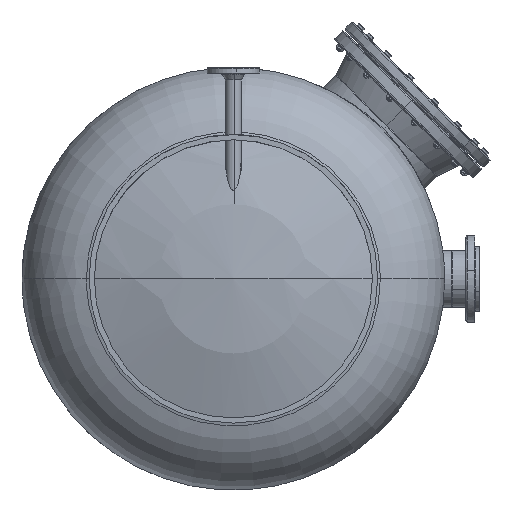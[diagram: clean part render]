
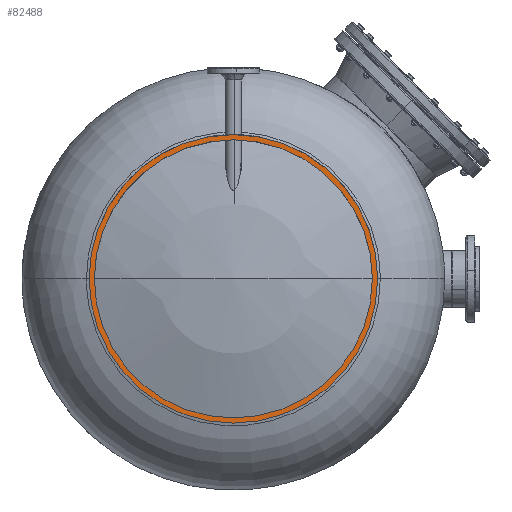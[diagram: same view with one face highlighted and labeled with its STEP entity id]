
A CAD part, front view. The second image highlights one B-rep face of the part: STEP entity #82488.
In plain terms, the highlighted planar face has unit normal (0, -1, 0).
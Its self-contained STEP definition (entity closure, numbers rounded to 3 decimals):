
#3137 = CARTESIAN_POINT ( 'NONE',  ( 415., 0., -415.041 ) ) ;
#3242 = CARTESIAN_POINT ( 'NONE',  ( 415., 0., -415.041 ) ) ;
#6216 = ORIENTED_EDGE ( 'NONE', *, *, #15493, .T. ) ;
#9442 = VERTEX_POINT ( 'NONE', #58768 ) ;
#10873 = DIRECTION ( 'NONE',  ( 0., 1., 0. ) ) ;
#15493 = EDGE_CURVE ( 'NONE', #9442, #36534, #25158, .T. ) ;
#15758 = ORIENTED_EDGE ( 'NONE', *, *, #78847, .T. ) ;
#16493 = EDGE_CURVE ( 'NONE', #9442, #36534, #100870, .T. ) ;
#20723 = DIRECTION ( 'NONE',  ( 1., 0., 0. ) ) ;
#24941 = AXIS2_PLACEMENT_3D ( 'NONE', #74271, #58102, #90992 ) ;
#25158 = CIRCLE ( 'NONE', #66234, 400. ) ;
#25773 = ORIENTED_EDGE ( 'NONE', *, *, #98356, .F. ) ;
#25821 = CARTESIAN_POINT ( 'NONE',  ( 415., 0., -415.041 ) ) ;
#28797 = CARTESIAN_POINT ( 'NONE',  ( 415., 0., -415.041 ) ) ;
#33082 = FACE_OUTER_BOUND ( 'NONE', #40284, .T. ) ;
#36136 = DIRECTION ( 'NONE',  ( 0., -1., 0. ) ) ;
#36534 = VERTEX_POINT ( 'NONE', #86131 ) ;
#38811 = DIRECTION ( 'NONE',  ( 1., 0., 0. ) ) ;
#39860 = CARTESIAN_POINT ( 'NONE',  ( 830., 0., -415.041 ) ) ;
#40284 = EDGE_LOOP ( 'NONE', ( #25773, #15758 ) ) ;
#40613 = FACE_BOUND ( 'NONE', #43981, .T. ) ;
#42076 = CIRCLE ( 'NONE', #24941, 415. ) ;
#43981 = EDGE_LOOP ( 'NONE', ( #95574, #6216 ) ) ;
#49539 = CIRCLE ( 'NONE', #54696, 415. ) ;
#52329 = VERTEX_POINT ( 'NONE', #69636 ) ;
#53096 = DIRECTION ( 'NONE',  ( 0., 1., 0. ) ) ;
#53502 = AXIS2_PLACEMENT_3D ( 'NONE', #3242, #10873, #67017 ) ;
#54696 = AXIS2_PLACEMENT_3D ( 'NONE', #3137, #36136, #38811 ) ;
#58102 = DIRECTION ( 'NONE',  ( 0., 1., 0. ) ) ;
#58768 = CARTESIAN_POINT ( 'NONE',  ( 815., 0., -415.041 ) ) ;
#66234 = AXIS2_PLACEMENT_3D ( 'NONE', #28797, #53096, #20723 ) ;
#67017 = DIRECTION ( 'NONE',  ( 1., 0., 0. ) ) ;
#68863 = DIRECTION ( 'NONE',  ( 1., 0., 0. ) ) ;
#69636 = CARTESIAN_POINT ( 'NONE',  ( 0., 0., -415.041 ) ) ;
#74271 = CARTESIAN_POINT ( 'NONE',  ( 415., 0., -415.041 ) ) ;
#75922 = DIRECTION ( 'NONE',  ( 0., -1., 0. ) ) ;
#78847 = EDGE_CURVE ( 'NONE', #78907, #52329, #49539, .T. ) ;
#78907 = VERTEX_POINT ( 'NONE', #39860 ) ;
#82488 = ADVANCED_FACE ( 'NONE', ( #33082, #40613 ), #90246, .F. ) ;
#86131 = CARTESIAN_POINT ( 'NONE',  ( 15., 0., -415.041 ) ) ;
#90246 = PLANE ( 'NONE',  #53502 ) ;
#90992 = DIRECTION ( 'NONE',  ( 1., 0., 0. ) ) ;
#95574 = ORIENTED_EDGE ( 'NONE', *, *, #16493, .F. ) ;
#98356 = EDGE_CURVE ( 'NONE', #78907, #52329, #42076, .T. ) ;
#100870 = CIRCLE ( 'NONE', #102608, 400. ) ;
#102608 = AXIS2_PLACEMENT_3D ( 'NONE', #25821, #75922, #68863 ) ;
